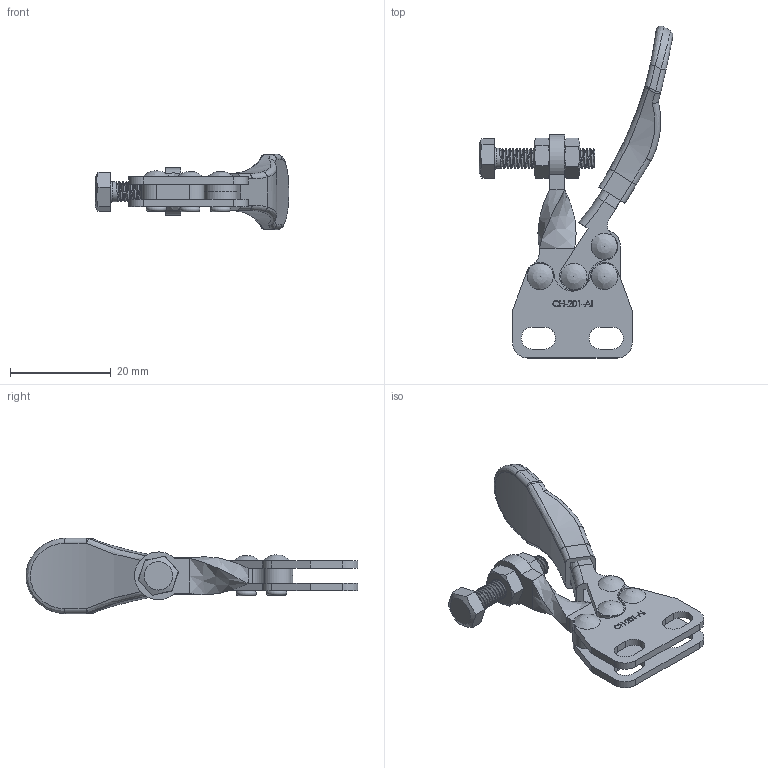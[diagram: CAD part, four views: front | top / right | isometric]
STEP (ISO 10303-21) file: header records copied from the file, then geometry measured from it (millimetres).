
FILE_DESCRIPTION(/* description */ ('STEP AP203'),/* implementation_level */ '2;1');
FILE_NAME(/* name */ 'E:\STRONA\Horizontal toggle clamp\CH-201-AI\CH-201-AI_OTWARTY.stp',/* time_stamp */ '2019-01-15T15:25:58+01:00',/* author */ ('Admin'),/* organization */ ('Î¢ÈíÖÐ¹ú'),/* preprocessor_version */ 'ST-DEVELOPER v17.2',/* originating_system */ 'Autodesk Inventor 2019',/* authorisation */ '');
FILE_SCHEMA (('AUTOMOTIVE_DESIGN { 1 0 10303 214 3 1 1 }'));
Products named in the file (10): CH-201-AI_OTWARTY; CH-201-A-02 SOLID BAR; CH-SA-042007 SPINDLE SUPPLIED; CH-201-A-04; CH-201-03 HANDLE; CH-201-A-03; CH-201-A-05; M4 Nut; CH-201-AI-01 FLANGED BASE; CH-201-A-06
Assembly tree (14 placements, depth 3):
  CH-201-AI_OTWARTY
    CH-201-A-04  x2
    CH-201-A-02 SOLID BAR
    CH-SA-042007 SPINDLE SUPPLIED
    CH-201-A-06  x4
    CH-201-03 HANDLE
      CH-201-A-03
      CH-201-A-05
    M4 Nut  x2
    CH-201-AI-01 FLANGED BASE
Bounding box: 38.53 x 66.03 x 15 mm (x, y, z)
Volume: 4307.5 mm3; surface area: 7625.3 mm2
Topology: 14 solids, 14 shells, 595 faces, 1641 edges, 1099 vertices
Faces by surface type: plane 251, bspline 184, cylinder 121, torus 19, cone 14, sphere 6
Full cylindrical faces by diameter (mm): 0.514 x1, 0.586 x1, 2.4 x4, 3 x18, 3.2 x4, 4 x26, 4.3 x1
Entity records: 40684 total; most frequent: CARTESIAN_POINT 27469, ORIENTED_EDGE 3018, DIRECTION 2069, EDGE_CURVE 1509, VERTEX_POINT 1010, LINE 811, VECTOR 811, AXIS2_PLACEMENT_3D 629
